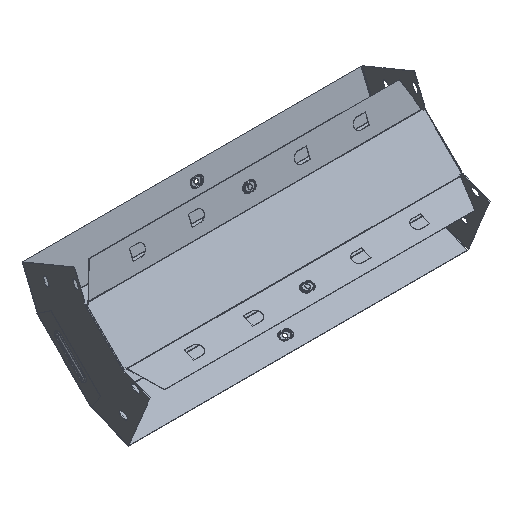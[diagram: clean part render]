
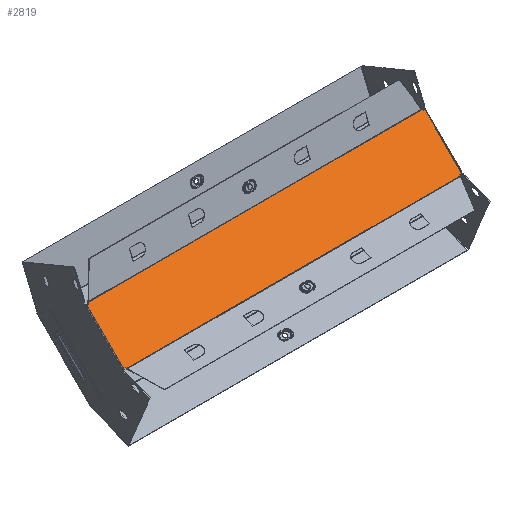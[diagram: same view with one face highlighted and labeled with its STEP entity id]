
A CAD part, isometric view. The second image highlights one B-rep face of the part: STEP entity #2819.
In plain terms, the highlighted planar face has unit normal (0, -0.707, 0.707).
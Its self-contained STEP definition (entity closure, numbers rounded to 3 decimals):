
#85 = DIRECTION ( 'NONE',  ( -0.383, -0.653, -0.653 ) ) ;
#179 = CARTESIAN_POINT ( 'NONE',  ( 294.345, 69.859, -2.258 ) ) ;
#199 = VERTEX_POINT ( 'NONE', #1038 ) ;
#284 = ORIENTED_EDGE ( 'NONE', *, *, #1676, .T. ) ;
#711 = DIRECTION ( 'NONE',  ( 0.924, 0.271, 0.271 ) ) ;
#1038 = CARTESIAN_POINT ( 'NONE',  ( -295.217, 68.371, -3.747 ) ) ;
#1078 = VECTOR ( 'NONE', #12149, 1000. ) ;
#1170 = ORIENTED_EDGE ( 'NONE', *, *, #8913, .T. ) ;
#1640 = VECTOR ( 'NONE', #12305, 1000. ) ;
#1676 = EDGE_CURVE ( 'NONE', #7776, #9770, #3382, .T. ) ;
#1768 = CARTESIAN_POINT ( 'NONE',  ( 295.217, 68.371, -3.747 ) ) ;
#1939 = EDGE_CURVE ( 'NONE', #6834, #10187, #6128, .T. ) ;
#2024 = EDGE_CURVE ( 'NONE', #8138, #6650, #3050, .T. ) ;
#2405 = ORIENTED_EDGE ( 'NONE', *, *, #2024, .T. ) ;
#2651 = ORIENTED_EDGE ( 'NONE', *, *, #10443, .T. ) ;
#2819 = ADVANCED_FACE ( 'NONE', ( #5862 ), #5383, .F. ) ;
#3050 = LINE ( 'NONE', #12131, #6764 ) ;
#3333 = CARTESIAN_POINT ( 'NONE',  ( 300.299, 2.258, -69.859 ) ) ;
#3378 = CARTESIAN_POINT ( 'NONE',  ( 298.2, 2.873, -69.245 ) ) ;
#3382 = LINE ( 'NONE', #3333, #1078 ) ;
#3421 = DIRECTION ( 'NONE',  ( 0., 0.707, -0.707 ) ) ;
#3459 = VECTOR ( 'NONE', #11718, 1000. ) ;
#3465 = VECTOR ( 'NONE', #12672, 1000. ) ;
#3490 = CARTESIAN_POINT ( 'NONE',  ( 298.2, 2.258, -69.859 ) ) ;
#3576 = EDGE_CURVE ( 'NONE', #11941, #9770, #9972, .T. ) ;
#3732 = VERTEX_POINT ( 'NONE', #6661 ) ;
#3933 = EDGE_CURVE ( 'NONE', #3732, #199, #10882, .T. ) ;
#4200 = VERTEX_POINT ( 'NONE', #7859 ) ;
#4294 = DIRECTION ( 'NONE',  ( -0.924, 0.271, 0.271 ) ) ;
#4654 = CARTESIAN_POINT ( 'NONE',  ( -294.345, 2.258, -69.859 ) ) ;
#4927 = DIRECTION ( 'NONE',  ( 0.383, 0.653, 0.653 ) ) ;
#5112 = ORIENTED_EDGE ( 'NONE', *, *, #1939, .T. ) ;
#5383 = PLANE ( 'NONE',  #6209 ) ;
#5392 = CARTESIAN_POINT ( 'NONE',  ( -298.2, 69.245, -2.873 ) ) ;
#5421 = DIRECTION ( 'NONE',  ( 0., 0.707, 0.707 ) ) ;
#5845 = LINE ( 'NONE', #9903, #11775 ) ;
#5862 = FACE_OUTER_BOUND ( 'NONE', #12275, .T. ) ;
#5867 = CARTESIAN_POINT ( 'NONE',  ( 273.5, 105.445, 33.327 ) ) ;
#5909 = EDGE_CURVE ( 'NONE', #6650, #9924, #11645, .T. ) ;
#6022 = VECTOR ( 'NONE', #12346, 1000. ) ;
#6076 = CARTESIAN_POINT ( 'NONE',  ( -298.2, 2.873, -69.245 ) ) ;
#6124 = LINE ( 'NONE', #6804, #3459 ) ;
#6128 = LINE ( 'NONE', #5867, #3465 ) ;
#6209 = AXIS2_PLACEMENT_3D ( 'NONE', #7410, #3421, #5421 ) ;
#6447 = CARTESIAN_POINT ( 'NONE',  ( 300.299, 69.859, -2.258 ) ) ;
#6650 = VERTEX_POINT ( 'NONE', #7498 ) ;
#6661 = CARTESIAN_POINT ( 'NONE',  ( -294.345, 69.859, -2.258 ) ) ;
#6764 = VECTOR ( 'NONE', #711, 1000. ) ;
#6804 = CARTESIAN_POINT ( 'NONE',  ( -298.2, 70., -2.118 ) ) ;
#6834 = VERTEX_POINT ( 'NONE', #1768 ) ;
#7348 = DIRECTION ( 'NONE',  ( -1., 0., 0. ) ) ;
#7410 = CARTESIAN_POINT ( 'NONE',  ( 298.2, 70., -2.118 ) ) ;
#7498 = CARTESIAN_POINT ( 'NONE',  ( -295.217, 3.747, -68.371 ) ) ;
#7776 = VERTEX_POINT ( 'NONE', #12341 ) ;
#7859 = CARTESIAN_POINT ( 'NONE',  ( 294.345, 2.258, -69.859 ) ) ;
#8037 = CARTESIAN_POINT ( 'NONE',  ( -273.5, 105.445, 33.327 ) ) ;
#8112 = VECTOR ( 'NONE', #4294, 1000. ) ;
#8138 = VERTEX_POINT ( 'NONE', #6076 ) ;
#8268 = VECTOR ( 'NONE', #7348, 1000. ) ;
#8807 = CARTESIAN_POINT ( 'NONE',  ( 298.2, 69.245, -2.873 ) ) ;
#8913 = EDGE_CURVE ( 'NONE', #10187, #3732, #10989, .T. ) ;
#8986 = DIRECTION ( 'NONE',  ( 0.383, -0.653, -0.653 ) ) ;
#9152 = CARTESIAN_POINT ( 'NONE',  ( 298.2, 70., -2.118 ) ) ;
#9229 = CARTESIAN_POINT ( 'NONE',  ( -300.299, 69.859, -2.258 ) ) ;
#9258 = CARTESIAN_POINT ( 'NONE',  ( 298.2, 69.859, -2.258 ) ) ;
#9770 = VERTEX_POINT ( 'NONE', #3378 ) ;
#9903 = CARTESIAN_POINT ( 'NONE',  ( 273.5, -33.327, -105.445 ) ) ;
#9924 = VERTEX_POINT ( 'NONE', #4654 ) ;
#9961 = VECTOR ( 'NONE', #11087, 1000. ) ;
#9972 = LINE ( 'NONE', #9152, #9961 ) ;
#9986 = LINE ( 'NONE', #3490, #1640 ) ;
#10130 = ORIENTED_EDGE ( 'NONE', *, *, #5909, .T. ) ;
#10187 = VERTEX_POINT ( 'NONE', #179 ) ;
#10225 = LINE ( 'NONE', #9229, #8112 ) ;
#10443 = EDGE_CURVE ( 'NONE', #11813, #8138, #6124, .T. ) ;
#10602 = ORIENTED_EDGE ( 'NONE', *, *, #3576, .F. ) ;
#10728 = EDGE_CURVE ( 'NONE', #199, #11813, #10225, .T. ) ;
#10758 = VECTOR ( 'NONE', #8986, 1000. ) ;
#10882 = LINE ( 'NONE', #8037, #11919 ) ;
#10975 = LINE ( 'NONE', #6447, #6022 ) ;
#10989 = LINE ( 'NONE', #9258, #8268 ) ;
#11076 = ORIENTED_EDGE ( 'NONE', *, *, #10728, .T. ) ;
#11087 = DIRECTION ( 'NONE',  ( 0., -0.707, -0.707 ) ) ;
#11102 = ORIENTED_EDGE ( 'NONE', *, *, #11318, .F. ) ;
#11222 = EDGE_CURVE ( 'NONE', #11941, #6834, #10975, .T. ) ;
#11318 = EDGE_CURVE ( 'NONE', #4200, #9924, #9986, .T. ) ;
#11397 = ORIENTED_EDGE ( 'NONE', *, *, #3933, .T. ) ;
#11621 = ORIENTED_EDGE ( 'NONE', *, *, #11222, .T. ) ;
#11645 = LINE ( 'NONE', #11933, #10758 ) ;
#11718 = DIRECTION ( 'NONE',  ( 0., -0.707, -0.707 ) ) ;
#11775 = VECTOR ( 'NONE', #4927, 1000. ) ;
#11813 = VERTEX_POINT ( 'NONE', #5392 ) ;
#11919 = VECTOR ( 'NONE', #85, 1000. ) ;
#11933 = CARTESIAN_POINT ( 'NONE',  ( -273.5, -33.327, -105.445 ) ) ;
#11941 = VERTEX_POINT ( 'NONE', #8807 ) ;
#12131 = CARTESIAN_POINT ( 'NONE',  ( -300.299, 2.258, -69.859 ) ) ;
#12149 = DIRECTION ( 'NONE',  ( 0.924, -0.271, -0.271 ) ) ;
#12187 = EDGE_CURVE ( 'NONE', #4200, #7776, #5845, .T. ) ;
#12275 = EDGE_LOOP ( 'NONE', ( #10130, #11102, #12441, #284, #10602, #11621, #5112, #1170, #11397, #11076, #2651, #2405 ) ) ;
#12305 = DIRECTION ( 'NONE',  ( -1., 0., 0. ) ) ;
#12341 = CARTESIAN_POINT ( 'NONE',  ( 295.217, 3.747, -68.371 ) ) ;
#12346 = DIRECTION ( 'NONE',  ( -0.924, -0.271, -0.271 ) ) ;
#12441 = ORIENTED_EDGE ( 'NONE', *, *, #12187, .T. ) ;
#12672 = DIRECTION ( 'NONE',  ( -0.383, 0.653, 0.653 ) ) ;
